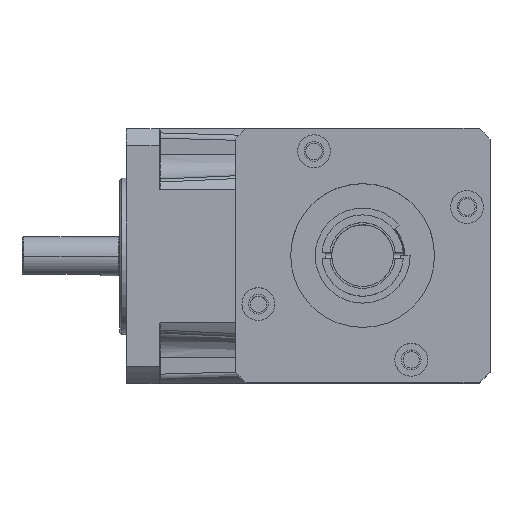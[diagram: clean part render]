
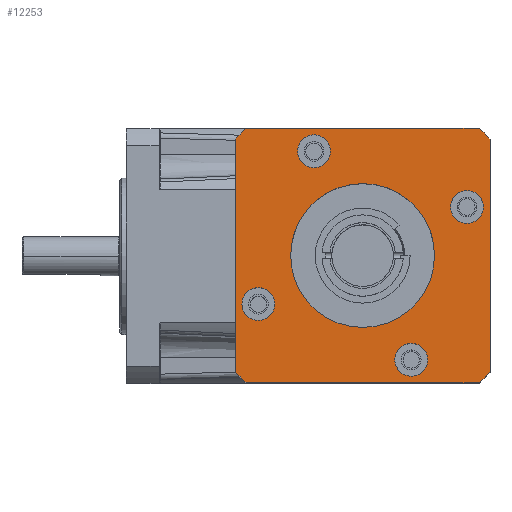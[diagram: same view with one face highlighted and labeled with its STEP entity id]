
A CAD part, top view. The second image highlights one B-rep face of the part: STEP entity #12253.
In plain terms, the highlighted planar face has unit normal (0, 0, 1).
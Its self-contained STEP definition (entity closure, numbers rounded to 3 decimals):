
#11568=CARTESIAN_POINT('',(0.,0.,141.2));
#11569=DIRECTION('',(0.,0.,-1.));
#11570=DIRECTION('',(0.738,-0.675,0.));
#11571=AXIS2_PLACEMENT_3D('',#11568,#11569,#11570);
#11573=DIRECTION('',(-1.,0.,0.));
#11574=VECTOR('',#11573,56.675);
#11575=CARTESIAN_POINT('',(28.337,-31.,141.2));
#11576=LINE('',#11575,#11574);
#11577=CARTESIAN_POINT('',(0.,0.,141.2));
#11578=DIRECTION('',(0.,0.,-1.));
#11579=DIRECTION('',(-0.675,-0.738,0.));
#11580=AXIS2_PLACEMENT_3D('',#11577,#11578,#11579);
#11582=DIRECTION('',(0.,1.,0.));
#11583=VECTOR('',#11582,56.675);
#11584=CARTESIAN_POINT('',(-31.,-28.337,141.2));
#11585=LINE('',#11584,#11583);
#11586=CARTESIAN_POINT('',(0.,0.,141.2));
#11587=DIRECTION('',(0.,0.,-1.));
#11588=DIRECTION('',(-0.738,0.675,0.));
#11589=AXIS2_PLACEMENT_3D('',#11586,#11587,#11588);
#11591=DIRECTION('',(1.,0.,0.));
#11592=VECTOR('',#11591,56.675);
#11593=CARTESIAN_POINT('',(-28.337,31.,141.2));
#11594=LINE('',#11593,#11592);
#11595=CARTESIAN_POINT('',(0.,0.,141.2));
#11596=DIRECTION('',(0.,0.,-1.));
#11597=DIRECTION('',(0.675,0.738,0.));
#11598=AXIS2_PLACEMENT_3D('',#11595,#11596,#11597);
#11600=DIRECTION('',(0.,-1.,0.));
#11601=VECTOR('',#11600,56.675);
#11602=CARTESIAN_POINT('',(31.,28.337,141.2));
#11603=LINE('',#11602,#11601);
#11604=CARTESIAN_POINT('',(0.,0.,141.2));
#11605=DIRECTION('',(0.,0.,1.));
#11606=DIRECTION('',(1.,0.,0.));
#11607=AXIS2_PLACEMENT_3D('',#11604,#11605,#11606);
#11609=CARTESIAN_POINT('',(0.,0.,141.2));
#11610=DIRECTION('',(0.,0.,1.));
#11611=DIRECTION('',(-1.,0.,0.));
#11612=AXIS2_PLACEMENT_3D('',#11609,#11610,#11611);
#11614=CARTESIAN_POINT('',(25.377,11.833,141.2));
#11615=DIRECTION('',(0.,0.,-1.));
#11616=DIRECTION('',(-1.,0.,0.));
#11617=AXIS2_PLACEMENT_3D('',#11614,#11615,#11616);
#11619=CARTESIAN_POINT('',(25.377,11.833,141.2));
#11620=DIRECTION('',(0.,0.,-1.));
#11621=DIRECTION('',(1.,0.,0.));
#11622=AXIS2_PLACEMENT_3D('',#11619,#11620,#11621);
#11624=CARTESIAN_POINT('',(-11.833,25.377,141.2));
#11625=DIRECTION('',(0.,0.,-1.));
#11626=DIRECTION('',(-1.,0.,0.));
#11627=AXIS2_PLACEMENT_3D('',#11624,#11625,#11626);
#11629=CARTESIAN_POINT('',(-11.833,25.377,141.2));
#11630=DIRECTION('',(0.,0.,-1.));
#11631=DIRECTION('',(1.,0.,0.));
#11632=AXIS2_PLACEMENT_3D('',#11629,#11630,#11631);
#11634=CARTESIAN_POINT('',(-25.377,-11.833,141.2));
#11635=DIRECTION('',(0.,0.,-1.));
#11636=DIRECTION('',(-1.,0.,0.));
#11637=AXIS2_PLACEMENT_3D('',#11634,#11635,#11636);
#11639=CARTESIAN_POINT('',(-25.377,-11.833,141.2));
#11640=DIRECTION('',(0.,0.,-1.));
#11641=DIRECTION('',(1.,0.,0.));
#11642=AXIS2_PLACEMENT_3D('',#11639,#11640,#11641);
#11644=CARTESIAN_POINT('',(11.833,-25.377,141.2));
#11645=DIRECTION('',(0.,0.,-1.));
#11646=DIRECTION('',(1.,0.,0.));
#11647=AXIS2_PLACEMENT_3D('',#11644,#11645,#11646);
#11649=CARTESIAN_POINT('',(11.833,-25.377,141.2));
#11650=DIRECTION('',(0.,0.,-1.));
#11651=DIRECTION('',(-1.,0.,0.));
#11652=AXIS2_PLACEMENT_3D('',#11649,#11650,#11651);
#12068=CARTESIAN_POINT('',(31.,-28.337,141.2));
#12069=CARTESIAN_POINT('',(28.337,-31.,141.2));
#12070=VERTEX_POINT('',#12068);
#12071=VERTEX_POINT('',#12069);
#12072=CARTESIAN_POINT('',(-28.337,-31.,141.2));
#12073=CARTESIAN_POINT('',(-31.,-28.337,141.2));
#12074=VERTEX_POINT('',#12072);
#12075=VERTEX_POINT('',#12073);
#12076=CARTESIAN_POINT('',(-31.,28.337,141.2));
#12077=CARTESIAN_POINT('',(-28.337,31.,141.2));
#12078=VERTEX_POINT('',#12076);
#12079=VERTEX_POINT('',#12077);
#12080=CARTESIAN_POINT('',(28.337,31.,141.2));
#12081=CARTESIAN_POINT('',(31.,28.337,141.2));
#12082=VERTEX_POINT('',#12080);
#12083=VERTEX_POINT('',#12081);
#12100=CARTESIAN_POINT('',(17.5,0.,141.2));
#12101=CARTESIAN_POINT('',(-17.5,0.,141.2));
#12102=VERTEX_POINT('',#12100);
#12103=VERTEX_POINT('',#12101);
#12124=CARTESIAN_POINT('',(21.377,11.833,141.2));
#12125=CARTESIAN_POINT('',(29.377,11.833,141.2));
#12126=VERTEX_POINT('',#12124);
#12127=VERTEX_POINT('',#12125);
#12140=CARTESIAN_POINT('',(-15.833,25.377,141.2));
#12141=VERTEX_POINT('',#12140);
#12142=CARTESIAN_POINT('',(-7.833,25.377,141.2));
#12143=VERTEX_POINT('',#12142);
#12152=CARTESIAN_POINT('',(-29.377,-11.833,141.2));
#12153=VERTEX_POINT('',#12152);
#12154=CARTESIAN_POINT('',(-21.377,-11.833,141.2));
#12155=VERTEX_POINT('',#12154);
#12164=CARTESIAN_POINT('',(7.833,-25.377,141.2));
#12165=VERTEX_POINT('',#12164);
#12166=CARTESIAN_POINT('',(15.833,-25.377,141.2));
#12167=VERTEX_POINT('',#12166);
#12200=CARTESIAN_POINT('',(0.,0.,141.2));
#12201=DIRECTION('',(0.,0.,-1.));
#12202=DIRECTION('',(-1.,0.,0.));
#12203=AXIS2_PLACEMENT_3D('',#12200,#12201,#12202);
#12204=PLANE('',#12203);
#12206=ORIENTED_EDGE('',*,*,#12205,.T.);
#12208=ORIENTED_EDGE('',*,*,#12207,.T.);
#12210=ORIENTED_EDGE('',*,*,#12209,.T.);
#12212=ORIENTED_EDGE('',*,*,#12211,.T.);
#12214=ORIENTED_EDGE('',*,*,#12213,.T.);
#12216=ORIENTED_EDGE('',*,*,#12215,.T.);
#12218=ORIENTED_EDGE('',*,*,#12217,.T.);
#12220=ORIENTED_EDGE('',*,*,#12219,.T.);
#12221=EDGE_LOOP('',(#12206,#12208,#12210,#12212,#12214,#12216,#12218,#12220));
#12222=FACE_OUTER_BOUND('',#12221,.F.);
#12224=ORIENTED_EDGE('',*,*,#12223,.T.);
#12226=ORIENTED_EDGE('',*,*,#12225,.T.);
#12227=EDGE_LOOP('',(#12224,#12226));
#12228=FACE_BOUND('',#12227,.F.);
#12230=ORIENTED_EDGE('',*,*,#12229,.F.);
#12232=ORIENTED_EDGE('',*,*,#12231,.F.);
#12233=EDGE_LOOP('',(#12230,#12232));
#12234=FACE_BOUND('',#12233,.F.);
#12236=ORIENTED_EDGE('',*,*,#12235,.F.);
#12238=ORIENTED_EDGE('',*,*,#12237,.F.);
#12239=EDGE_LOOP('',(#12236,#12238));
#12240=FACE_BOUND('',#12239,.F.);
#12242=ORIENTED_EDGE('',*,*,#12241,.F.);
#12244=ORIENTED_EDGE('',*,*,#12243,.F.);
#12245=EDGE_LOOP('',(#12242,#12244));
#12246=FACE_BOUND('',#12245,.F.);
#12248=ORIENTED_EDGE('',*,*,#12247,.F.);
#12250=ORIENTED_EDGE('',*,*,#12249,.F.);
#12251=EDGE_LOOP('',(#12248,#12250));
#12252=FACE_BOUND('',#12251,.F.);
#12253=ADVANCED_FACE('',(#12222,#12228,#12234,#12240,#12246,#12252),#12204,.F.);
#11572=CIRCLE('',#11571,42.);
#11581=CIRCLE('',#11580,42.);
#11590=CIRCLE('',#11589,42.);
#11599=CIRCLE('',#11598,42.);
#11608=CIRCLE('',#11607,17.5);
#11613=CIRCLE('',#11612,17.5);
#11618=CIRCLE('',#11617,4.);
#11623=CIRCLE('',#11622,4.);
#11628=CIRCLE('',#11627,4.);
#11633=CIRCLE('',#11632,4.);
#11638=CIRCLE('',#11637,4.);
#11643=CIRCLE('',#11642,4.);
#11648=CIRCLE('',#11647,4.);
#11653=CIRCLE('',#11652,4.);
#12205=EDGE_CURVE('',#12070,#12071,#11572,.T.);
#12207=EDGE_CURVE('',#12071,#12074,#11576,.T.);
#12209=EDGE_CURVE('',#12074,#12075,#11581,.T.);
#12211=EDGE_CURVE('',#12075,#12078,#11585,.T.);
#12213=EDGE_CURVE('',#12078,#12079,#11590,.T.);
#12215=EDGE_CURVE('',#12079,#12082,#11594,.T.);
#12217=EDGE_CURVE('',#12082,#12083,#11599,.T.);
#12219=EDGE_CURVE('',#12083,#12070,#11603,.T.);
#12223=EDGE_CURVE('',#12102,#12103,#11608,.T.);
#12225=EDGE_CURVE('',#12103,#12102,#11613,.T.);
#12229=EDGE_CURVE('',#12126,#12127,#11618,.T.);
#12231=EDGE_CURVE('',#12127,#12126,#11623,.T.);
#12235=EDGE_CURVE('',#12141,#12143,#11628,.T.);
#12237=EDGE_CURVE('',#12143,#12141,#11633,.T.);
#12241=EDGE_CURVE('',#12153,#12155,#11638,.T.);
#12243=EDGE_CURVE('',#12155,#12153,#11643,.T.);
#12247=EDGE_CURVE('',#12167,#12165,#11648,.T.);
#12249=EDGE_CURVE('',#12165,#12167,#11653,.T.);
